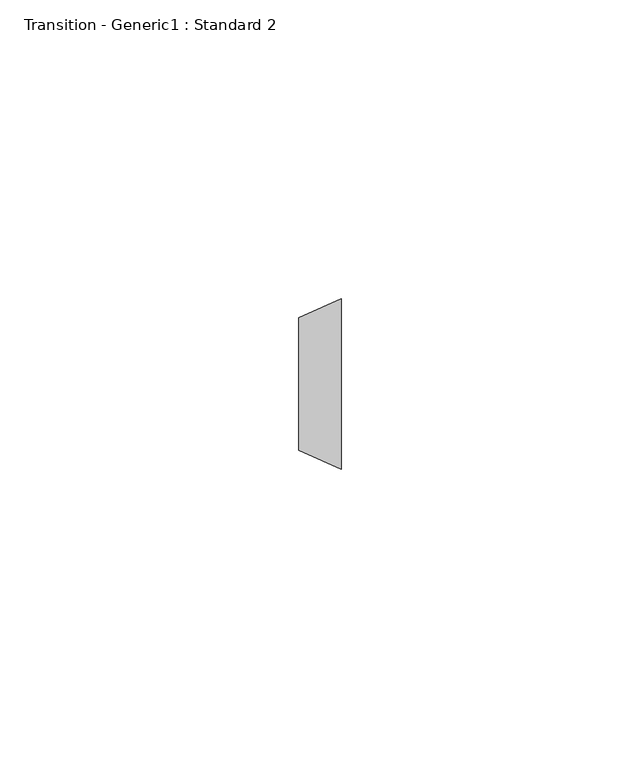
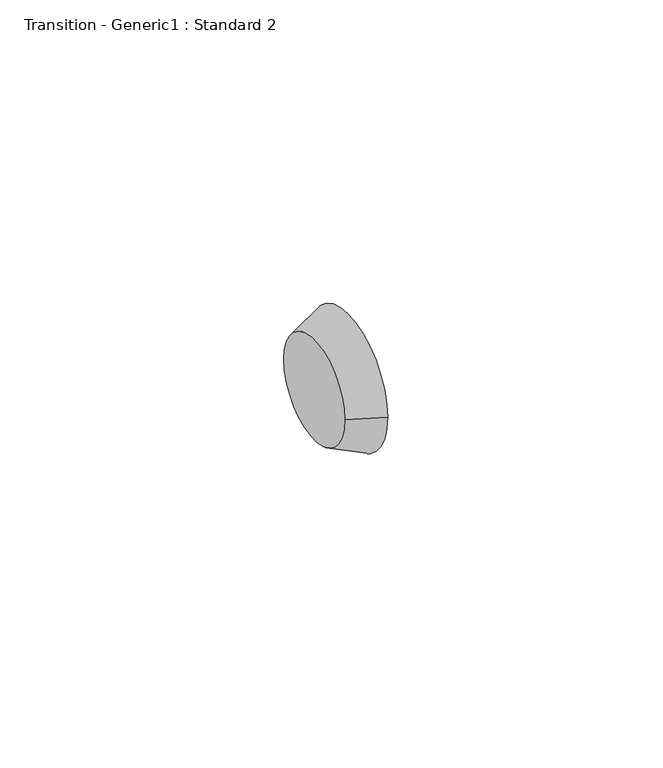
"""IFC4 building model written with IfcOpenShell, lengths in millimetres: pipe fitting geometry, Transition - Generic1 : Standard 2."""

from ifc_helpers import new_model, si_unit, frame, origin, place, context, project, spatial, polyline, circle_curve, source, transform, mapped, element, save
from ifc_brep_helpers import plane_surface, revolved_surface, advanced_brep


def transition_generic1_standard_2_0acd84b5(model_context):
    return source(origin(), model_context, "Body", "AdvancedBrep", [
        advanced_brep(
        [(7.14375, -14.2875, 0.0), (7.14375, 14.2875, 0.0), (0.0, -11.1125, 0.0), (0.0, 11.1125, 0.0)],
        [
            (0, 1, circle_curve(frame((7.14375, 0.0, 0.0), z_axis=(1.0, 0.0, 0.0), x_axis=(0.0, -1.0, 0.0)), 14.2875)),
            (1, 0, circle_curve(frame((7.14375, 0.0, 0.0), z_axis=(1.0, 0.0, 0.0), x_axis=(0.0, 1.0, 0.0)), 14.2875)),
            (2, 3, circle_curve(frame((0.0, 0.0, 0.0), z_axis=(-1.0, 0.0, 0.0), x_axis=(0.0, 1.0, 0.0)), 11.1125)),
            (3, 2, circle_curve(frame((0.0, 0.0, 0.0), z_axis=(-1.0, 0.0, 0.0), x_axis=(0.0, -1.0, 0.0)), 11.1125)),
            (3, 1),
            (0, 2),
        ],
        [
            plane_surface(frame((7.14375, 0.0, 0.0), z_axis=(1.0, 0.0, 0.0), x_axis=(0.0, 0.0, -1.0))),
            plane_surface(frame((0.0, 0.0, 0.0), z_axis=(-1.0, 0.0, 0.0), x_axis=(0.0, 0.0, -1.0))),
            revolved_surface(polyline([(0.0, 11.1125, 0.0), (7.143750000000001, 14.2875, 0.0)]), (-25.003125, 0.0, 0.0), (1.0, 0.0, 0.0)),
            revolved_surface(polyline([(0.0, -11.1125, 0.0), (7.143750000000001, -14.2875, 0.0)]), (-25.003125, 0.0, 0.0), (1.0, 0.0, 0.0)),
        ],
        [
            (0, [[1, 2]]),
            (1, [[3, 4]]),
            (2, [[-4, 5, -1, 6]]),
            (3, [[-3, -6, -2, -5]]),
        ],
    ),
    ])


if __name__ == "__main__":
    model = new_model("IFC4")
    model_context = context("Model", 3, world=origin())
    ifc_project = project(units=[si_unit("LENGTHUNIT", "METRE", prefix="MILLI")], contexts=[model_context])
    site = spatial("IfcSite", under=ifc_project)
    building = spatial("IfcBuilding", under=site)
    placement = place(None, origin())
    transition_generic1_standard_2_shape = transition_generic1_standard_2_0acd84b5(model_context)
    element("IfcPipeFitting", 1, ObjectType="Transition - Generic1 : Standard 2", at=placement, inside=building, context=model_context, shape_type="MappedRepresentation", body=[
        mapped(transition_generic1_standard_2_shape, transform((0.0, 0.0, 0.0), x_axis=(1.0, 0.0, 0.0), y_axis=(0.0, 1.0, 0.0), z_axis=(0.0, 0.0, 1.0))),
    ])
    save(model, "model.ifc")
